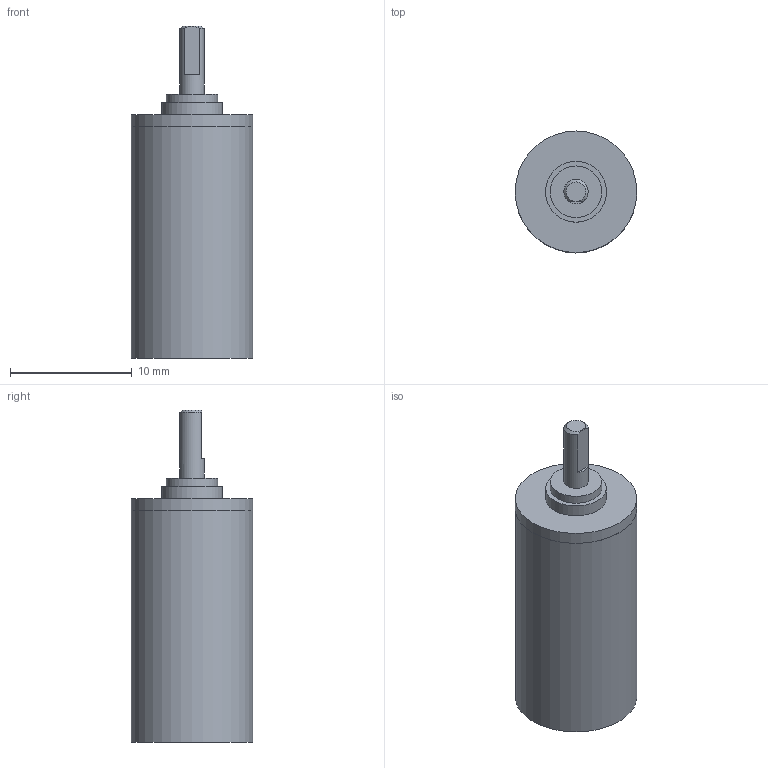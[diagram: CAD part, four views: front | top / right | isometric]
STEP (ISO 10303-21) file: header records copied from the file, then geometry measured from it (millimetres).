
FILE_DESCRIPTION(/* description */ (''),/* implementation_level */ '2;1');
FILE_NAME(/* name */ '10-1K_4.stp',/* time_stamp */ '2016-08-24T08:31:38+02:00',/* author */ ('DR. FRITZ FAULHABER GmbH & Co. KG'),/* organization */ ('DR. FRITZ FAULHABER GmbH & Co. KG'),/* preprocessor_version */ 'ST-DEVELOPER v16',/* originating_system */ 'SIEMENS PLM Software NX 10.0',/* authorisation */ '');
FILE_SCHEMA (('AUTOMOTIVE_DESIGN { 1 0 10303 214 3 1 1 1 }'));
Length unit declared in the file: millimetre
Products named in the file (1): H00000416_A
Bounding box: 10 x 10 x 27.3 mm (x, y, z)
Volume: 1529.5 mm3; surface area: 915.4 mm2
Topology: 1 solids, 1 shells, 24 faces, 42 edges, 28 vertices
Faces by surface type: plane 12, cylinder 10, cone 2
Full cylindrical faces by diameter (mm): 2 x1, 3.12 x1, 3.32 x1, 4.25 x1, 4.959 x1, 5 x1, 6 x1, 9.99 x1, 10 x2
Entity records: 532 total; most frequent: DIRECTION 97, CARTESIAN_POINT 91, ORIENTED_EDGE 54, AXIS2_PLACEMENT_3D 47, EDGE_LOOP 43, FACE_BOUND 38, EDGE_CURVE 27, ADVANCED_FACE 24
